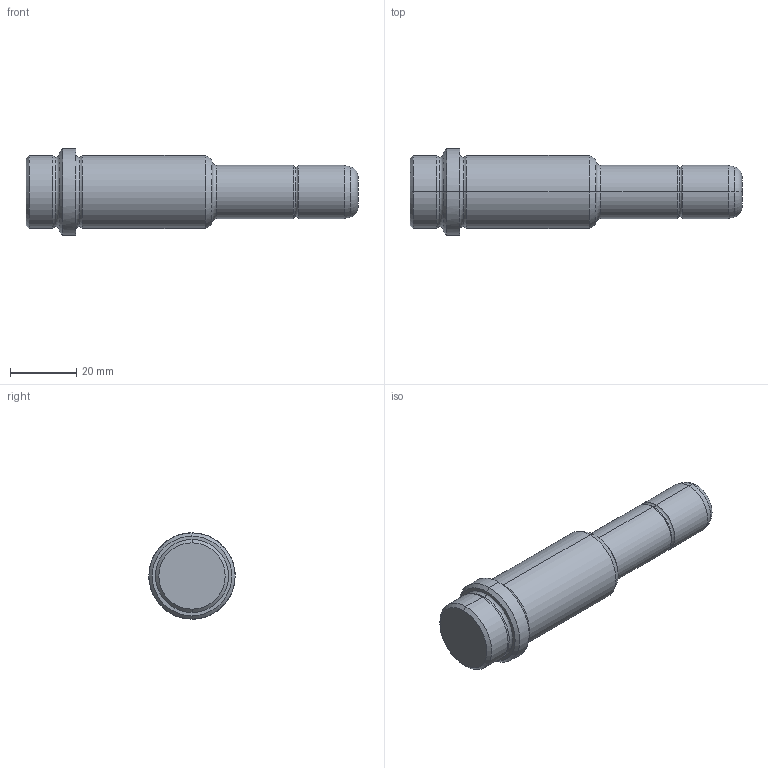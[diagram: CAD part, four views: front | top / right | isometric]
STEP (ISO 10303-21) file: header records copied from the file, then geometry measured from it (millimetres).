
FILE_DESCRIPTION(('CATIA V5 STEP Exchange'),'2;1');
FILE_NAME('C:\Users\Utente\Desktop\IO LAVORO\3D X SITO CF\X SITO\PLASTICA\357\357-16X56X100.stp','2021-08-14T09:09:20+00:00',('none'),('none'),'CATIA Version 5 Release 20 GA (IN-10)','CATIA V5 STEP AP203','none');
FILE_SCHEMA(('CONFIG_CONTROL_DESIGN'));
Length unit declared in the file: millimetre
Products named in the file (1): 357-16X56X100
Bounding box: 100 x 26 x 26 mm (x, y, z)
Volume: 30495.7 mm3; surface area: 6985.4 mm2
Topology: 1 solids, 1 shells, 39 faces, 112 edges, 78 vertices
Faces by surface type: torus 16, cylinder 10, cone 8, plane 5
Entity records: 1404 total; most frequent: CARTESIAN_POINT 342, ORIENTED_EDGE 224, DIRECTION 182, AXIS2_PLACEMENT_3D 126, EDGE_CURVE 112, CIRCLE 86, VERTEX_POINT 78, EDGE_LOOP 42
